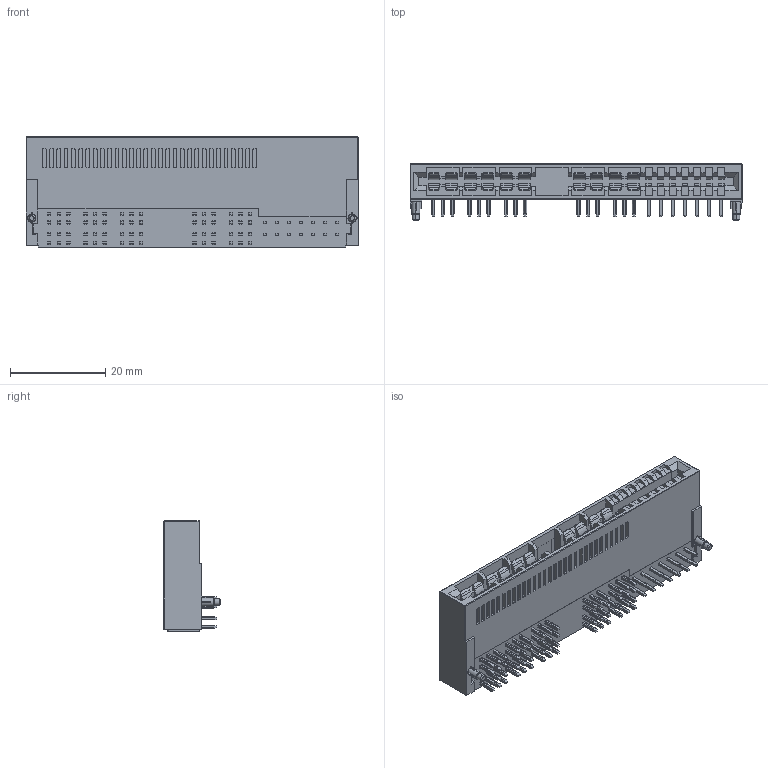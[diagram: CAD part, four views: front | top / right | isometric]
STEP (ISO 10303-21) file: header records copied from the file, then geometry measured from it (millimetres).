
FILE_DESCRIPTION (( 'STEP AP214' ), '1' );
FILE_NAME ('9305-4P12S14B7SAA09.STEP', '2025-11-07T07:23:19', ( '' ), ( '' ), 'SwSTEP 2.0', 'SolidWorks 2011', '' );
FILE_SCHEMA (( 'AUTOMOTIVE_DESIGN' ));
Length unit declared in the file: millimetre
Products named in the file (1): 9305-4P12S14B7SAA09
Bounding box: 69.64 x 11.85 x 23.15 mm (x, y, z)
Volume: 10292.7 mm3; surface area: 7812.3 mm2
Topology: 1 solids, 5 shells, 2404 faces, 6650 edges, 4402 vertices
Faces by surface type: plane 1657, cylinder 739, cone 8
Entity records: 102554 total; most frequent: CARTESIAN_POINT 15569, ORIENTED_EDGE 13300, DIRECTION 11834, EDGE_CURVE 6650, LINE 4868, VECTOR 4868, VERTEX_POINT 4402, AXIS2_PLACEMENT_3D 3483
